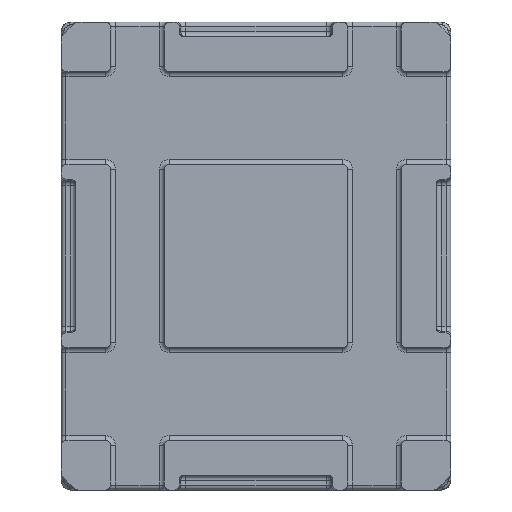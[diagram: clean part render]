
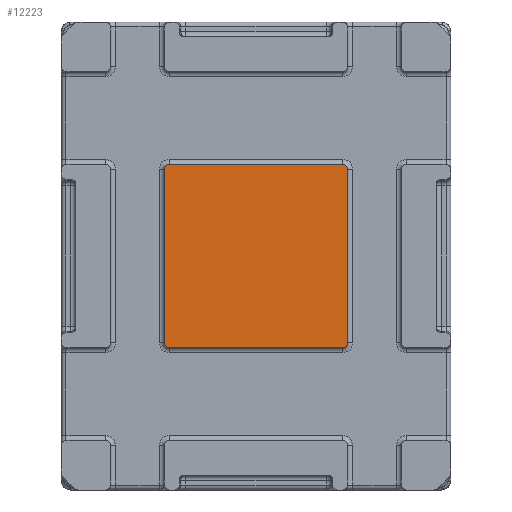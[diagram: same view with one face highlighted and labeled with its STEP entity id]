
A CAD part, front view. The second image highlights one B-rep face of the part: STEP entity #12223.
In plain terms, the highlighted planar face has unit normal (0, -1, 0).
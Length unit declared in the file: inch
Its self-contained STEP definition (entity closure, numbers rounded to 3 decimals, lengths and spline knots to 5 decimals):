
#10 = VECTOR ( 'NONE', #8302, 39.37008 ) ;
#332 = DIRECTION ( 'NONE',  ( 0., 1., 0. ) ) ;
#398 = LINE ( 'NONE', #6997, #10 ) ;
#698 = CARTESIAN_POINT ( 'NONE',  ( 10.9375, 0., 14.875 ) ) ;
#1087 = EDGE_CURVE ( 'NONE', #12794, #13245, #4806, .T. ) ;
#1126 = ORIENTED_EDGE ( 'NONE', *, *, #7793, .F. ) ;
#1352 = PLANE ( 'NONE',  #3206 ) ;
#1408 = DIRECTION ( 'NONE',  ( 0., 0., 1. ) ) ;
#1457 = ORIENTED_EDGE ( 'NONE', *, *, #5937, .T. ) ;
#1520 = AXIS2_PLACEMENT_3D ( 'NONE', #2247, #11400, #3574 ) ;
#1859 = CARTESIAN_POINT ( 'NONE',  ( 10.4375, 0., 14.875 ) ) ;
#2018 = DIRECTION ( 'NONE',  ( 0., 0., 1. ) ) ;
#2100 = ORIENTED_EDGE ( 'NONE', *, *, #9343, .F. ) ;
#2247 = CARTESIAN_POINT ( 'NONE',  ( 10.9375, 0., 32.375 ) ) ;
#2338 = ORIENTED_EDGE ( 'NONE', *, *, #7211, .F. ) ;
#2416 = EDGE_CURVE ( 'NONE', #16079, #13245, #16204, .T. ) ;
#2451 = ORIENTED_EDGE ( 'NONE', *, *, #14578, .T. ) ;
#3136 = DIRECTION ( 'NONE',  ( 0., 0., 1. ) ) ;
#3206 = AXIS2_PLACEMENT_3D ( 'NONE', #6609, #9242, #1408 ) ;
#3448 = CIRCLE ( 'NONE', #15714, 0.5 ) ;
#3574 = DIRECTION ( 'NONE',  ( 0., 0., -1. ) ) ;
#4806 = CIRCLE ( 'NONE', #7385, 0.5 ) ;
#5121 = CIRCLE ( 'NONE', #6939, 0.5 ) ;
#5568 = DIRECTION ( 'NONE',  ( 0., 0., 1. ) ) ;
#5674 = VERTEX_POINT ( 'NONE', #7599 ) ;
#5937 = EDGE_CURVE ( 'NONE', #14249, #12246, #398, .T. ) ;
#6030 = LINE ( 'NONE', #14695, #16023 ) ;
#6335 = EDGE_LOOP ( 'NONE', ( #2100, #13414, #14866, #2338, #2451, #15864, #1457, #1126 ) ) ;
#6404 = CARTESIAN_POINT ( 'NONE',  ( 28.4375, 0., 32.875 ) ) ;
#6538 = VECTOR ( 'NONE', #3136, 39.37008 ) ;
#6567 = CARTESIAN_POINT ( 'NONE',  ( 28.4375, 0., 32.375 ) ) ;
#6609 = CARTESIAN_POINT ( 'NONE',  ( 0., 0., 23.625 ) ) ;
#6939 = AXIS2_PLACEMENT_3D ( 'NONE', #6567, #15684, #7874 ) ;
#6997 = CARTESIAN_POINT ( 'NONE',  ( 19.6875, 0., 32.875 ) ) ;
#7083 = VERTEX_POINT ( 'NONE', #10476 ) ;
#7211 = EDGE_CURVE ( 'NONE', #7083, #16079, #3448, .T. ) ;
#7230 = CARTESIAN_POINT ( 'NONE',  ( 28.4375, 0., 14.375 ) ) ;
#7385 = AXIS2_PLACEMENT_3D ( 'NONE', #698, #9841, #2018 ) ;
#7599 = CARTESIAN_POINT ( 'NONE',  ( 10.4375, 0., 32.375 ) ) ;
#7793 = EDGE_CURVE ( 'NONE', #5674, #12246, #16487, .T. ) ;
#7874 = DIRECTION ( 'NONE',  ( 0., 0., -1. ) ) ;
#8157 = CARTESIAN_POINT ( 'NONE',  ( 28.4375, 0., 14.875 ) ) ;
#8178 = CARTESIAN_POINT ( 'NONE',  ( 19.6875, 0., 14.375 ) ) ;
#8302 = DIRECTION ( 'NONE',  ( -1., 0., 0. ) ) ;
#8718 = CARTESIAN_POINT ( 'NONE',  ( 28.9375, 0., 32.375 ) ) ;
#9242 = DIRECTION ( 'NONE',  ( 0., 1., 0. ) ) ;
#9343 = EDGE_CURVE ( 'NONE', #12794, #5674, #6030, .T. ) ;
#9481 = DIRECTION ( 'NONE',  ( 0., 0., 1. ) ) ;
#9649 = CARTESIAN_POINT ( 'NONE',  ( 28.9375, 0., 14.375 ) ) ;
#9841 = DIRECTION ( 'NONE',  ( 0., -1., 0. ) ) ;
#10476 = CARTESIAN_POINT ( 'NONE',  ( 28.9375, 0., 14.875 ) ) ;
#10488 = VERTEX_POINT ( 'NONE', #8718 ) ;
#10877 = FACE_OUTER_BOUND ( 'NONE', #6335, .T. ) ;
#11400 = DIRECTION ( 'NONE',  ( 0., 1., 0. ) ) ;
#11930 = CARTESIAN_POINT ( 'NONE',  ( 10.9375, 0., 32.875 ) ) ;
#12031 = CARTESIAN_POINT ( 'NONE',  ( 10.9375, 0., 14.375 ) ) ;
#12092 = DIRECTION ( 'NONE',  ( -1., 0., 0. ) ) ;
#12223 = ADVANCED_FACE ( 'NONE', ( #10877 ), #1352, .F. ) ;
#12246 = VERTEX_POINT ( 'NONE', #11930 ) ;
#12626 = EDGE_CURVE ( 'NONE', #10488, #14249, #5121, .T. ) ;
#12766 = VECTOR ( 'NONE', #12092, 39.37008 ) ;
#12794 = VERTEX_POINT ( 'NONE', #1859 ) ;
#13245 = VERTEX_POINT ( 'NONE', #12031 ) ;
#13414 = ORIENTED_EDGE ( 'NONE', *, *, #1087, .T. ) ;
#13456 = LINE ( 'NONE', #9649, #6538 ) ;
#14249 = VERTEX_POINT ( 'NONE', #6404 ) ;
#14578 = EDGE_CURVE ( 'NONE', #7083, #10488, #13456, .T. ) ;
#14695 = CARTESIAN_POINT ( 'NONE',  ( 10.4375, 0., 14.375 ) ) ;
#14866 = ORIENTED_EDGE ( 'NONE', *, *, #2416, .F. ) ;
#15684 = DIRECTION ( 'NONE',  ( 0., -1., 0. ) ) ;
#15714 = AXIS2_PLACEMENT_3D ( 'NONE', #8157, #332, #9481 ) ;
#15864 = ORIENTED_EDGE ( 'NONE', *, *, #12626, .T. ) ;
#16023 = VECTOR ( 'NONE', #5568, 39.37008 ) ;
#16079 = VERTEX_POINT ( 'NONE', #7230 ) ;
#16204 = LINE ( 'NONE', #8178, #12766 ) ;
#16487 = CIRCLE ( 'NONE', #1520, 0.5 ) ;
